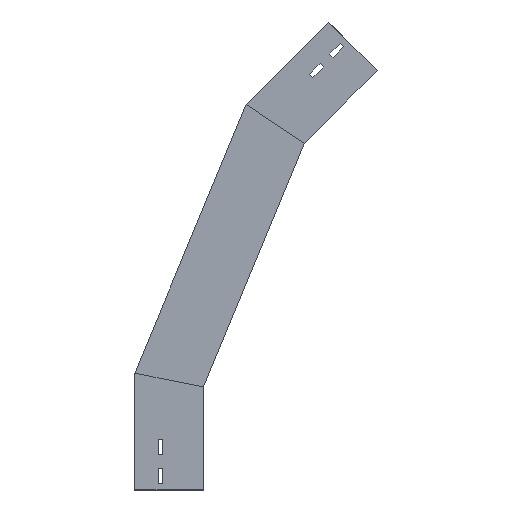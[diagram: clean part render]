
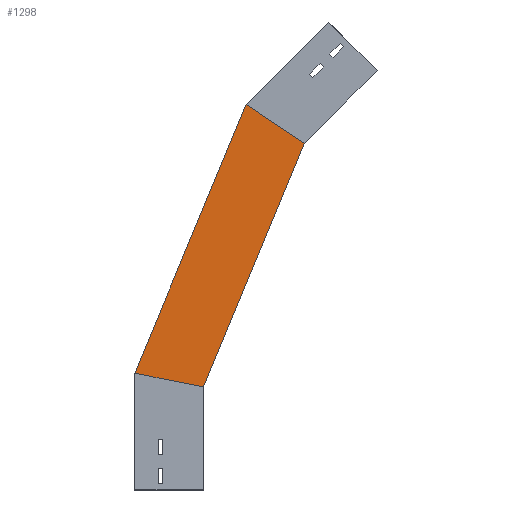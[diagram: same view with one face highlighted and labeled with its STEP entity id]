
A CAD part, left-side view. The second image highlights one B-rep face of the part: STEP entity #1298.
In plain terms, the highlighted planar face has unit normal (-1, 0, 0) as drawn and (1, 0, 0) by its records, which use the part's own axes.
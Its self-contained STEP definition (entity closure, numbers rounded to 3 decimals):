
#14 = EDGE_LOOP ( 'NONE', ( #973, #1414, #219, #1339 ) ) ;
#57 = CARTESIAN_POINT ( 'NONE',  ( 0., 8.412, 129.693 ) ) ;
#92 = DIRECTION ( 'NONE',  ( 0., -0.383, 0.924 ) ) ;
#154 = PLANE ( 'NONE',  #590 ) ;
#165 = VECTOR ( 'NONE', #415, 1000. ) ;
#212 = CARTESIAN_POINT ( 'NONE',  ( 0., -61.792, 560.491 ) ) ;
#216 = CARTESIAN_POINT ( 'NONE',  ( 0., -146.568, 503.846 ) ) ;
#219 = ORIENTED_EDGE ( 'NONE', *, *, #1230, .F. ) ;
#221 = DIRECTION ( 'NONE',  ( 0., -0.981, -0.195 ) ) ;
#249 = CARTESIAN_POINT ( 'NONE',  ( 0., 100., 169.891 ) ) ;
#300 = CARTESIAN_POINT ( 'NONE',  ( 0., 100.799, 167.961 ) ) ;
#382 = LINE ( 'NONE', #582, #1381 ) ;
#415 = DIRECTION ( 'NONE',  ( 0., -0.831, -0.556 ) ) ;
#422 = VERTEX_POINT ( 'NONE', #216 ) ;
#429 = VERTEX_POINT ( 'NONE', #1143 ) ;
#565 = LINE ( 'NONE', #300, #1454 ) ;
#574 = CARTESIAN_POINT ( 'NONE',  ( 0., -28.701, 144.291 ) ) ;
#582 = CARTESIAN_POINT ( 'NONE',  ( 0., 8.412, 129.693 ) ) ;
#590 = AXIS2_PLACEMENT_3D ( 'NONE', #57, #1419, #1199 ) ;
#640 = EDGE_CURVE ( 'NONE', #1034, #422, #1442, .T. ) ;
#743 = CARTESIAN_POINT ( 'NONE',  ( 0., -212.26, 459.952 ) ) ;
#973 = ORIENTED_EDGE ( 'NONE', *, *, #1466, .T. ) ;
#1034 = VERTEX_POINT ( 'NONE', #212 ) ;
#1063 = FACE_OUTER_BOUND ( 'NONE', #14, .T. ) ;
#1135 = EDGE_CURVE ( 'NONE', #1148, #429, #1493, .T. ) ;
#1143 = CARTESIAN_POINT ( 'NONE',  ( 0., 0., 150. ) ) ;
#1148 = VERTEX_POINT ( 'NONE', #249 ) ;
#1199 = DIRECTION ( 'NONE',  ( 0., 0., -1. ) ) ;
#1230 = EDGE_CURVE ( 'NONE', #429, #422, #382, .T. ) ;
#1298 = ADVANCED_FACE ( 'NONE', ( #1063 ), #154, .T. ) ;
#1339 = ORIENTED_EDGE ( 'NONE', *, *, #1135, .F. ) ;
#1375 = DIRECTION ( 'NONE',  ( 0., -0.383, 0.924 ) ) ;
#1381 = VECTOR ( 'NONE', #1375, 1000. ) ;
#1413 = VECTOR ( 'NONE', #221, 1000. ) ;
#1414 = ORIENTED_EDGE ( 'NONE', *, *, #640, .T. ) ;
#1419 = DIRECTION ( 'NONE',  ( 1., 0., 0. ) ) ;
#1442 = LINE ( 'NONE', #743, #165 ) ;
#1454 = VECTOR ( 'NONE', #92, 1000. ) ;
#1466 = EDGE_CURVE ( 'NONE', #1148, #1034, #565, .T. ) ;
#1493 = LINE ( 'NONE', #574, #1413 ) ;
